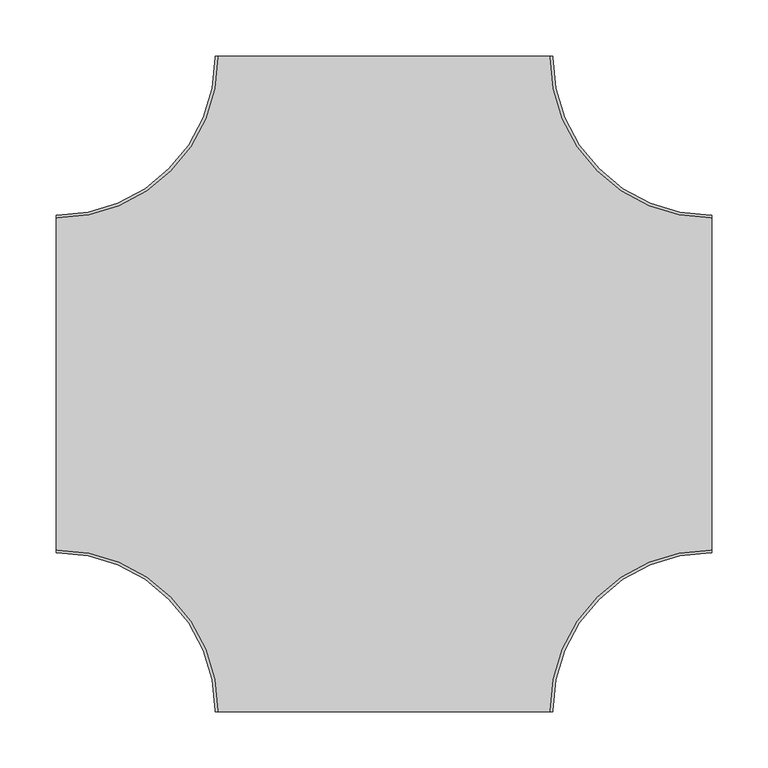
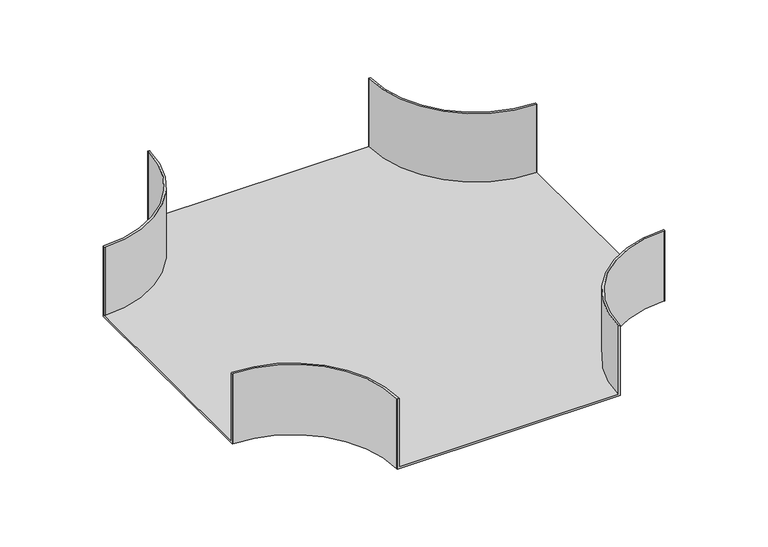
"""IFC4 building model written with IfcOpenShell, lengths in millimetres: cable carrier fitting geometry, BAKS_Horizontal cross over radius : CZKPJ_H100."""

from ifc_helpers import new_model, si_unit, frame, origin, place, context, project, spatial, polyline, circle_curve, source, transform, mapped, element, save
from ifc_brep_helpers import plane_surface, cylinder_surface, revolved_surface, advanced_brep


def cable_carrier_fitting_7ef83dec(model_context):
    return source(origin(), model_context, "Body", "AdvancedBrep", [
        advanced_brep(
        [(-150.0, -290.0, 50.0), (-150.0, -291.0, 50.0), (-147.46, -291.0, 50.0), (-147.46, -290.0, 50.0), (-290.0, -147.46, 50.0), (-291.0, -147.46, 50.0), (-291.0, -150.0, 50.0), (-290.0, -150.0, 50.0), (150.0, -290.0, 50.0), (290.0, -150.0, 50.0), (291.0, -150.0, 50.0), (291.0, -147.46, 50.0), (290.0, -147.46, 50.0), (147.46, -290.0, 50.0), (147.46, -291.0, 50.0), (150.0, -291.0, 50.0), (-290.0, 150.0, 50.0), (-291.0, 150.0, 50.0), (-291.0, 147.46, 50.0), (-290.0, 147.46, 50.0), (-147.46, 290.0, 50.0), (-147.46, 291.0, 50.0), (-150.0, 291.0, 50.0), (-150.0, 290.0, 50.0), (147.46, 290.0, 50.0), (290.0, 147.46, 50.0), (291.0, 147.46, 50.0), (291.0, 150.0, 50.0), (290.0, 150.0, 50.0), (150.0, 290.0, 50.0), (150.0, 291.0, 50.0), (147.46, 291.0, 50.0), (-150.0, -290.0, -50.0), (-290.0, -150.0, -50.0), (-291.0, -150.0, -50.0), (-291.0, 150.0, -50.0), (-290.0, 150.0, -50.0), (-150.0, 290.0, -50.0), (-150.0, 291.0, -50.0), (150.0, 291.0, -50.0), (150.0, 290.0, -50.0), (290.0, 150.0, -50.0), (291.0, 150.0, -50.0), (291.0, -150.0, -50.0), (290.0, -150.0, -50.0), (150.0, -290.0, -50.0), (150.0, -291.0, -50.0), (-150.0, -291.0, -50.0), (-150.0, -290.0, -47.46), (147.46, -291.0, -47.46), (-147.46, -291.0, -47.46), (-147.46, -290.0, -47.46), (-290.0, -147.46, -47.46), (-291.0, -147.46, -47.46), (-291.0, 147.46, -47.46), (-290.0, -150.0, -47.46), (150.0, -290.0, -47.46), (290.0, -150.0, -47.46), (291.0, 147.46, -47.46), (291.0, -147.46, -47.46), (290.0, -147.46, -47.46), (147.46, -290.0, -47.46), (290.0, 147.46, -47.46), (147.46, 290.0, -47.46), (147.46, 291.0, -47.46), (-147.46, 291.0, -47.46), (-147.46, 290.0, -47.46), (-290.0, 147.46, -47.46), (-290.0, 150.0, -47.46), (-150.0, 290.0, -47.46), (290.0, 150.0, -47.46), (150.0, 290.0, -47.46)],
        [
            (0, 1),
            (1, 2),
            (2, 3),
            (3, 4, circle_curve(frame((-290.0, -290.0, 50.0), z_axis=(0.0, 0.0, 1.0), x_axis=(1.0, 0.0, 0.0)), 142.54)),
            (4, 5),
            (5, 6),
            (6, 7),
            (7, 0, circle_curve(frame((-290.0, -290.0, 50.0), z_axis=(0.0, 0.0, -1.0), x_axis=(1.0, 0.0, 0.0)), 140.0)),
            (8, 9, circle_curve(frame((290.0, -290.0, 50.0), z_axis=(0.0, 0.0, -1.0), x_axis=(1.0, 0.0, 0.0)), 140.0)),
            (9, 10),
            (10, 11),
            (11, 12),
            (12, 13, circle_curve(frame((290.0, -290.0, 50.0), z_axis=(0.0, 0.0, 1.0), x_axis=(1.0, 0.0, 0.0)), 142.54)),
            (13, 14),
            (14, 15),
            (15, 8),
            (16, 17),
            (17, 18),
            (18, 19),
            (19, 20, circle_curve(frame((-290.0, 290.0, 50.0), z_axis=(0.0, 0.0, 1.0), x_axis=(1.0, 0.0, 0.0)), 142.54)),
            (20, 21),
            (21, 22),
            (22, 23),
            (23, 16, circle_curve(frame((-290.0, 290.0, 50.0), z_axis=(0.0, 0.0, -1.0), x_axis=(1.0, 0.0, 0.0)), 140.0)),
            (24, 25, circle_curve(frame((290.0, 290.0, 50.0), z_axis=(0.0, 0.0, 1.0), x_axis=(1.0, 0.0, 0.0)), 142.54)),
            (25, 26),
            (26, 27),
            (27, 28),
            (28, 29, circle_curve(frame((290.0, 290.0, 50.0), z_axis=(0.0, 0.0, -1.0), x_axis=(1.0, 0.0, 0.0)), 140.0)),
            (29, 30),
            (30, 31),
            (31, 24),
            (32, 33, circle_curve(frame((-290.0, -290.0, -50.0), z_axis=(0.0, 0.0, 1.0), x_axis=(1.0, 0.0, 0.0)), 140.0)),
            (33, 34),
            (34, 35),
            (35, 36),
            (36, 37, circle_curve(frame((-290.0, 290.0, -50.0), z_axis=(0.0, 0.0, 1.0), x_axis=(1.0, 0.0, 0.0)), 140.0)),
            (37, 38),
            (38, 39),
            (39, 40),
            (40, 41, circle_curve(frame((290.0, 290.0, -50.0), z_axis=(0.0, 0.0, 1.0), x_axis=(1.0, 0.0, 0.0)), 140.0)),
            (41, 42),
            (42, 43),
            (43, 44),
            (44, 45, circle_curve(frame((290.0, -290.0, -50.0), z_axis=(0.0, 0.0, 1.0), x_axis=(1.0, 0.0, 0.0)), 140.0)),
            (45, 46),
            (46, 47),
            (47, 32),
            (47, 1),
            (0, 48),
            (48, 32),
            (46, 15),
            (14, 49),
            (49, 50),
            (50, 2),
            (50, 51),
            (51, 3),
            (51, 52, circle_curve(frame((-290.0, -290.0, -47.46), z_axis=(0.0, 0.0, 1.0), x_axis=(1.0, 0.0, 0.0)), 142.54)),
            (52, 4),
            (52, 53),
            (53, 5),
            (53, 54),
            (54, 18),
            (17, 35),
            (34, 6),
            (33, 55),
            (55, 7),
            (8, 56),
            (56, 45),
            (44, 57),
            (57, 9),
            (43, 10),
            (42, 27),
            (26, 58),
            (58, 59),
            (59, 11),
            (59, 60),
            (60, 12),
            (60, 61, circle_curve(frame((290.0, -290.0, -47.46), z_axis=(0.0, 0.0, 1.0), x_axis=(1.0, 0.0, 0.0)), 142.54)),
            (61, 13),
            (61, 49),
            (58, 62),
            (62, 63, circle_curve(frame((290.0, 290.0, -47.46), z_axis=(0.0, 0.0, -1.0), x_axis=(1.0, 0.0, 0.0)), 142.54)),
            (63, 64),
            (64, 65),
            (65, 66),
            (66, 67, circle_curve(frame((-290.0, 290.0, -47.46), z_axis=(0.0, 0.0, -1.0), x_axis=(1.0, 0.0, 0.0)), 142.54)),
            (67, 54),
            (16, 68),
            (68, 36),
            (67, 19),
            (66, 20),
            (65, 21),
            (64, 31),
            (30, 39),
            (38, 22),
            (37, 69),
            (69, 23),
            (24, 63),
            (62, 25),
            (41, 70),
            (70, 28),
            (40, 71),
            (71, 29),
        ],
        [
            plane_surface(frame((-150.0, -290.0, 50.0), z_axis=(0.0, 0.0, 1.0), x_axis=(0.0, -1.0, 0.0))),
            plane_surface(frame((-150.0, -290.0, -50.0), z_axis=(0.0, 0.0, -1.0), x_axis=(0.0, 1.0, 0.0))),
            plane_surface(frame((-150.0, -290.0, 50.0), z_axis=(-1.0, 0.0, 0.0), x_axis=(0.0, 0.0, -1.0))),
            plane_surface(frame((-150.0, -291.0, 50.0), z_axis=(0.0, -1.0, 0.0), x_axis=(0.0, 0.0, -1.0))),
            plane_surface(frame((-147.46, -291.0, 50.0), z_axis=(1.0, 0.0, 0.0), x_axis=(0.0, 0.0, -1.0))),
            cylinder_surface(frame((-290.0, -290.0, -50.0), z_axis=(0.0, 0.0, 1.0), x_axis=(1.0, 0.0, 0.0)), 142.54),
            plane_surface(frame((-290.0, -147.46, 50.0), z_axis=(0.0, 1.0, 0.0), x_axis=(0.0, 0.0, -1.0))),
            plane_surface(frame((-291.0, -147.46, 50.0), z_axis=(-1.0, 0.0, 0.0), x_axis=(0.0, 0.0, -1.0))),
            plane_surface(frame((-291.0, -150.0, 50.0), z_axis=(2.8256064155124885e-12, -1.0, 0.0), x_axis=(0.0, 0.0, -1.0))),
            revolved_surface(polyline([(-150.0, -290.0, -50.0), (-150.0, -290.0, 50.0)]), (-290.0, -290.0, -50.0), (0.0, 0.0, -1.0)),
            revolved_surface(polyline([(430.0, -290.0, -50.0), (430.0, -290.0, 50.0)]), (290.0, -290.0, 0.0), (0.0, 0.0, -1.0)),
            plane_surface(frame((290.0, -150.0, 50.0), z_axis=(-2.825606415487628e-12, -1.0, 0.0), x_axis=(0.0, 0.0, -1.0))),
            plane_surface(frame((291.0, -150.0, 50.0), z_axis=(1.0, 0.0, 0.0), x_axis=(0.0, 0.0, -1.0))),
            plane_surface(frame((291.0, -147.46, 50.0), z_axis=(0.0, 1.0, 0.0), x_axis=(0.0, 0.0, -1.0))),
            cylinder_surface(frame((290.0, -290.0, 0.0), z_axis=(0.0, 0.0, 1.0), x_axis=(1.0, 0.0, 0.0)), 142.54),
            plane_surface(frame((147.46, -290.0, 50.0), z_axis=(-1.0, 0.0, 0.0), x_axis=(0.0, 0.0, -1.0))),
            plane_surface(frame((150.0, -291.0, 50.0), z_axis=(1.0, 0.0, 0.0), x_axis=(0.0, 0.0, -1.0))),
            plane_surface(frame((-150.0, -290.0, -47.46), z_axis=(0.0, 0.0, 1.0), x_axis=(1.7258194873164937e-12, -1.0, 0.0))),
            plane_surface(frame((-290.0, 150.0, 50.0), z_axis=(4.4312953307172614e-11, 1.0, 0.0), x_axis=(0.0, 0.0, -1.0))),
            plane_surface(frame((-291.0, 147.46, 50.0), z_axis=(-4.666480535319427e-11, -1.0, 0.0), x_axis=(0.0, 0.0, -1.0))),
            cylinder_surface(frame((-290.0, 290.0, 0.0), z_axis=(0.0, 0.0, 1.0), x_axis=(1.0, 0.0, 0.0)), 142.54),
            plane_surface(frame((-147.46, 290.0, 50.0), z_axis=(1.0, -1.7765788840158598e-12, 0.0), x_axis=(0.0, 0.0, -1.0))),
            plane_surface(frame((-147.46, 291.0, 50.0), z_axis=(0.0, 1.0, 0.0), x_axis=(0.0, 0.0, -1.0))),
            plane_surface(frame((-150.0, 291.0, 50.0), z_axis=(-1.0, 1.7258194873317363e-12, 0.0), x_axis=(0.0, 0.0, -1.0))),
            revolved_surface(polyline([(-150.0, 290.0, -50.0), (-150.0, 290.0, 50.0)]), (-290.0, 290.0, 0.0), (0.0, 0.0, -1.0)),
            cylinder_surface(frame((290.0, 290.0, 0.0), z_axis=(0.0, 0.0, 1.0), x_axis=(1.0, 0.0, 0.0)), 142.54),
            plane_surface(frame((290.0, 147.46, 50.0), z_axis=(0.0, -1.0, 0.0), x_axis=(0.0, 0.0, -1.0))),
            plane_surface(frame((291.0, 150.0, 50.0), z_axis=(0.0, 1.0, 0.0), x_axis=(0.0, 0.0, -1.0))),
            revolved_surface(polyline([(430.0, 290.0, -50.0), (430.0, 290.0, 50.0)]), (290.0, 290.0, 0.0), (0.0, 0.0, -1.0)),
            plane_surface(frame((150.0, 290.0, 50.0), z_axis=(1.0, 2.096363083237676e-11, 0.0), x_axis=(0.0, 0.0, -1.0))),
            plane_surface(frame((147.46, 291.0, 50.0), z_axis=(-1.0, -2.1928059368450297e-11, 0.0), x_axis=(0.0, 0.0, -1.0))),
        ],
        [
            (0, [[1, 2, 3, 4, 5, 6, 7, 8]]),
            (0, [[9, 10, 11, 12, 13, 14, 15, 16]]),
            (0, [[17, 18, 19, 20, 21, 22, 23, 24]]),
            (0, [[25, 26, 27, 28, 29, 30, 31, 32]]),
            (1, [[33, 34, 35, 36, 37, 38, 39, 40, 41, 42, 43, 44, 45, 46, 47, 48]]),
            (2, [[49, -1, 50, 51, -48]]),
            (3, [[-2, -49, -47, 52, -15, 53, 54, 55]]),
            (4, [[-3, -55, 56, 57]]),
            (5, [[-4, -57, 58, 59]]),
            (6, [[-5, -59, 60, 61]]),
            (7, [[-6, -61, 62, 63, -18, 64, -35, 65]]),
            (8, [[-7, -65, -34, 66, 67]]),
            (9, [[-8, -67, -66, -33, -51, -50]]),
            (10, [[-9, 68, 69, -45, 70, 71]]),
            (11, [[72, -10, -71, -70, -44]]),
            (12, [[-11, -72, -43, 73, -27, 74, 75, 76]]),
            (13, [[-12, -76, 77, 78]]),
            (14, [[-13, -78, 79, 80]]),
            (15, [[-14, -80, 81, -53]]),
            (16, [[-16, -52, -46, -69, -68]]),
            (17, [[-54, -81, -79, -77, -75, 82, 83, 84, 85, 86, 87, 88, -62, -60, -58, -56]]),
            (18, [[-64, -17, 89, 90, -36]]),
            (19, [[-19, -63, -88, 91]]),
            (20, [[-20, -91, -87, 92]]),
            (21, [[-21, -92, -86, 93]]),
            (22, [[-22, -93, -85, 94, -31, 95, -39, 96]]),
            (23, [[-23, -96, -38, 97, 98]]),
            (24, [[-24, -98, -97, -37, -90, -89]]),
            (25, [[-25, 99, -83, 100]]),
            (26, [[-26, -100, -82, -74]]),
            (27, [[-28, -73, -42, 101, 102]]),
            (28, [[-29, -102, -101, -41, 103, 104]]),
            (29, [[-95, -30, -104, -103, -40]]),
            (30, [[-32, -94, -84, -99]]),
        ],
    ),
    ])


if __name__ == "__main__":
    model = new_model("IFC4")
    model_context = context("Model", 3, world=origin())
    ifc_project = project(units=[si_unit("LENGTHUNIT", "METRE", prefix="MILLI")], contexts=[model_context])
    site = spatial("IfcSite", under=ifc_project)
    building = spatial("IfcBuilding", under=site)
    placement = place(None, origin())
    cable_carrier_fitting_shape = cable_carrier_fitting_7ef83dec(model_context)
    element("IfcCableCarrierFitting", 1, ObjectType="BAKS_Horizontal cross over radius : CZKPJ_H100", at=placement, inside=building, context=model_context, shape_type="MappedRepresentation", body=[
        mapped(cable_carrier_fitting_shape, transform((0.0, 0.0, 0.0), x_axis=(1.0, 0.0, 0.0), y_axis=(0.0, 1.0, 0.0), z_axis=(0.0, 0.0, 1.0))),
    ])
    save(model, "model.ifc")
